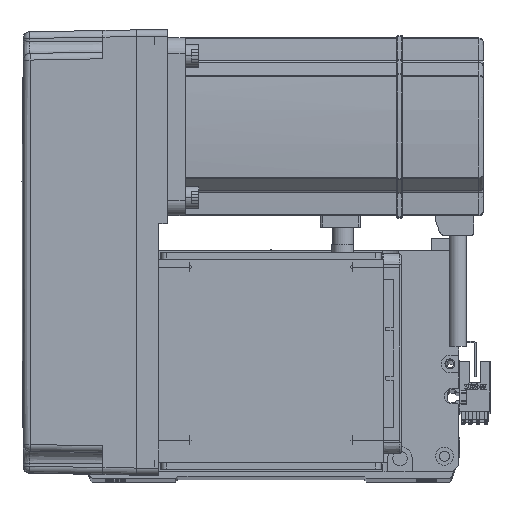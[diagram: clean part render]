
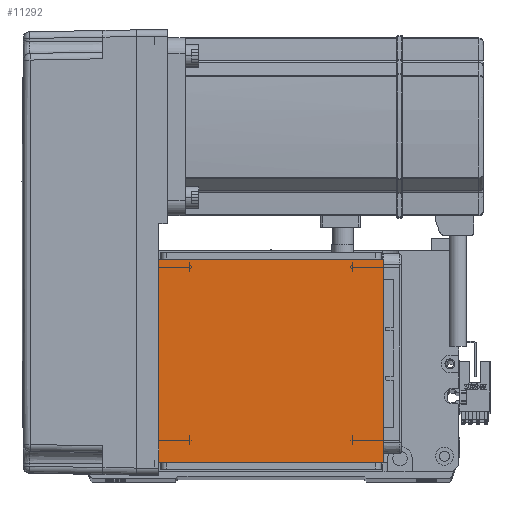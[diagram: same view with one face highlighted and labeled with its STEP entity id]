
A CAD part, top view. The second image highlights one B-rep face of the part: STEP entity #11292.
In plain terms, the highlighted planar face has unit normal (0, 0, 1).
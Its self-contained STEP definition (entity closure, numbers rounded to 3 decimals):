
#612 = DIRECTION ( 'NONE',  ( 0., -1., 0. ) ) ;
#2934 = LINE ( 'NONE', #51633, #25306 ) ;
#4895 = DIRECTION ( 'NONE',  ( 0., 1., 0. ) ) ;
#7628 = VERTEX_POINT ( 'NONE', #52376 ) ;
#8251 = EDGE_CURVE ( 'NONE', #17451, #20989, #40778, .T. ) ;
#8253 = DIRECTION ( 'NONE',  ( 1., 0., 0. ) ) ;
#9693 = VERTEX_POINT ( 'NONE', #33623 ) ;
#11166 = LINE ( 'NONE', #42116, #32900 ) ;
#11292 = ADVANCED_FACE ( 'NONE', ( #52443 ), #17274, .T. ) ;
#12650 = EDGE_CURVE ( 'NONE', #7628, #9693, #51579, .T. ) ;
#13774 = VECTOR ( 'NONE', #612, 1000. ) ;
#13878 = EDGE_CURVE ( 'NONE', #17451, #9693, #11166, .T. ) ;
#15836 = DIRECTION ( 'NONE',  ( 1., 0., 0. ) ) ;
#17274 = PLANE ( 'NONE',  #19309 ) ;
#17451 = VERTEX_POINT ( 'NONE', #43642 ) ;
#19309 = AXIS2_PLACEMENT_3D ( 'NONE', #21561, #35250, #8253 ) ;
#20989 = VERTEX_POINT ( 'NONE', #22913 ) ;
#21561 = CARTESIAN_POINT ( 'NONE',  ( 0., 0., 115. ) ) ;
#22913 = CARTESIAN_POINT ( 'NONE',  ( 50.5, 111.5, 115. ) ) ;
#25306 = VECTOR ( 'NONE', #15836, 1000. ) ;
#31700 = CARTESIAN_POINT ( 'NONE',  ( 50.5, 122., 115. ) ) ;
#31777 = ORIENTED_EDGE ( 'NONE', *, *, #8251, .T. ) ;
#32900 = VECTOR ( 'NONE', #42495, 1000. ) ;
#33618 = ORIENTED_EDGE ( 'NONE', *, *, #13878, .F. ) ;
#33623 = CARTESIAN_POINT ( 'NONE',  ( -50.5, 20., 115. ) ) ;
#35250 = DIRECTION ( 'NONE',  ( 0., 0., 1. ) ) ;
#40778 = LINE ( 'NONE', #31700, #57654 ) ;
#41925 = ORIENTED_EDGE ( 'NONE', *, *, #12650, .T. ) ;
#42116 = CARTESIAN_POINT ( 'NONE',  ( -70.004, 20., 115. ) ) ;
#42495 = DIRECTION ( 'NONE',  ( -1., 0., 0. ) ) ;
#43642 = CARTESIAN_POINT ( 'NONE',  ( 50.5, 20., 115. ) ) ;
#46345 = ORIENTED_EDGE ( 'NONE', *, *, #55757, .F. ) ;
#49727 = CARTESIAN_POINT ( 'NONE',  ( -50.5, 122., 115. ) ) ;
#51579 = LINE ( 'NONE', #49727, #13774 ) ;
#51633 = CARTESIAN_POINT ( 'NONE',  ( -70.004, 111.5, 115. ) ) ;
#52376 = CARTESIAN_POINT ( 'NONE',  ( -50.5, 111.5, 115. ) ) ;
#52443 = FACE_OUTER_BOUND ( 'NONE', #54564, .T. ) ;
#54564 = EDGE_LOOP ( 'NONE', ( #46345, #41925, #33618, #31777 ) ) ;
#55757 = EDGE_CURVE ( 'NONE', #7628, #20989, #2934, .T. ) ;
#57654 = VECTOR ( 'NONE', #4895, 1000. ) ;
